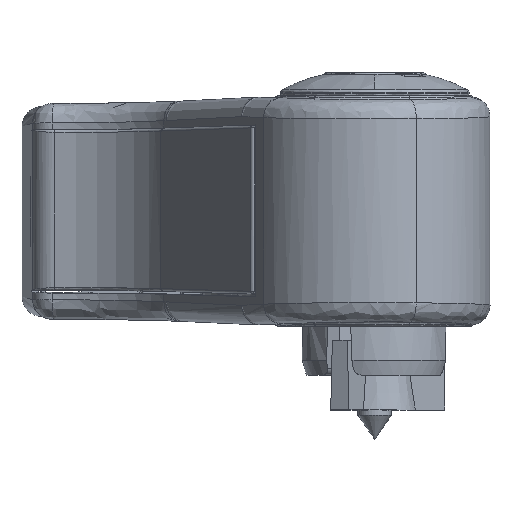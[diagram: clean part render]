
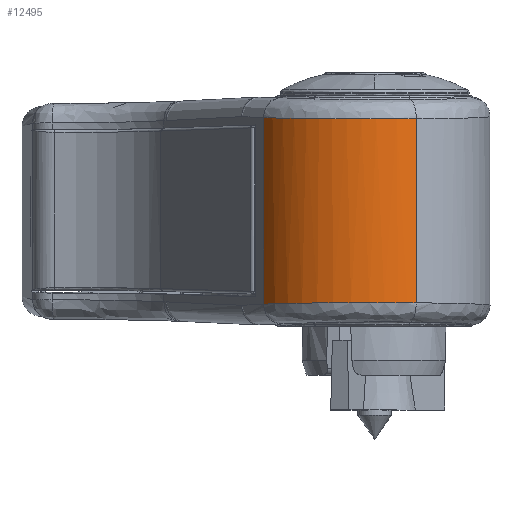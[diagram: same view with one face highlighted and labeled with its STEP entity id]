
A CAD part, top view. The second image highlights one B-rep face of the part: STEP entity #12495.
In plain terms, the highlighted cylindrical face has radius 17.65 mm (diameter 35.3 mm), a partial arc.
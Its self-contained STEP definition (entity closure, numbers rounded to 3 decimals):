
#636 = ORIENTED_EDGE ( 'NONE', *, *, #9479, .F. ) ;
#931 = CARTESIAN_POINT ( 'NONE',  ( 46.516, 66.827, 65.426 ) ) ;
#1066 = CARTESIAN_POINT ( 'NONE',  ( 59.144, 66.826, 65.392 ) ) ;
#1199 = CARTESIAN_POINT ( 'NONE',  ( 55.027, 66.852, 66.562 ) ) ;
#1325 = CARTESIAN_POINT ( 'NONE',  ( 43.203, 66.79, 63.783 ) ) ;
#1991 = DIRECTION ( 'NONE',  ( 1., 0., 0. ) ) ;
#2242 = ORIENTED_EDGE ( 'NONE', *, *, #7779, .T. ) ;
#2251 = CARTESIAN_POINT ( 'NONE',  ( 47.142, 93.168, 65.652 ) ) ;
#2643 = CARTESIAN_POINT ( 'NONE',  ( 42.349, 93.223, 63.2 ) ) ;
#2894 = CARTESIAN_POINT ( 'NONE',  ( 39.939, 93.269, 61.082 ) ) ;
#3431 = CARTESIAN_POINT ( 'NONE',  ( 39.939, 66.731, 61.082 ) ) ;
#3831 = CARTESIAN_POINT ( 'NONE',  ( 46.74, 93.171, 65.51 ) ) ;
#3975 = CYLINDRICAL_SURFACE ( 'NONE', #9862, 17.65 ) ;
#4004 = LINE ( 'NONE', #4261, #22356 ) ;
#4230 = CARTESIAN_POINT ( 'NONE',  ( 52.786, 66.49, 48.927 ) ) ;
#4261 = CARTESIAN_POINT ( 'NONE',  ( 37.291, 80.12, 57.379 ) ) ;
#4358 = CARTESIAN_POINT ( 'NONE',  ( 46.925, 93.17, 65.576 ) ) ;
#4593 = CARTESIAN_POINT ( 'NONE',  ( 59.144, 93.174, 65.392 ) ) ;
#4630 = ORIENTED_EDGE ( 'NONE', *, *, #11629, .T. ) ;
#4886 = VERTEX_POINT ( 'NONE', #10245 ) ;
#4903 = CARTESIAN_POINT ( 'NONE',  ( 45.606, 66.819, 65.053 ) ) ;
#5003 = CARTESIAN_POINT ( 'NONE',  ( 38.508, 93.307, 59.364 ) ) ;
#5412 = CARTESIAN_POINT ( 'NONE',  ( 57.152, 66.843, 66.162 ) ) ;
#5808 = CARTESIAN_POINT ( 'NONE',  ( 50.793, 93.15, 66.496 ) ) ;
#6202 = CARTESIAN_POINT ( 'NONE',  ( 48.72, 93.158, 66.111 ) ) ;
#6331 = CARTESIAN_POINT ( 'NONE',  ( 47.958, 93.162, 65.906 ) ) ;
#6866 = CARTESIAN_POINT ( 'NONE',  ( 43.203, 93.21, 63.783 ) ) ;
#7779 = EDGE_CURVE ( 'NONE', #4886, #14725, #25189, .T. ) ;
#8556 = VERTEX_POINT ( 'NONE', #14013 ) ;
#8830 = CARTESIAN_POINT ( 'NONE',  ( 37.855, 93.328, 58.413 ) ) ;
#8853 = CARTESIAN_POINT ( 'NONE',  ( 37.291, 66.65, 57.379 ) ) ;
#9365 = CARTESIAN_POINT ( 'NONE',  ( 46.613, 66.828, 65.463 ) ) ;
#9479 = EDGE_CURVE ( 'NONE', #4886, #8556, #4004, .T. ) ;
#9791 = EDGE_CURVE ( 'NONE', #19786, #8556, #22956, .T. ) ;
#9862 = AXIS2_PLACEMENT_3D ( 'NONE', #4230, #11994, #1991 ) ;
#9895 = CARTESIAN_POINT ( 'NONE',  ( 57.152, 93.157, 66.162 ) ) ;
#10153 = CARTESIAN_POINT ( 'NONE',  ( 49.235, 93.156, 66.224 ) ) ;
#10245 = CARTESIAN_POINT ( 'NONE',  ( 37.291, 66.65, 57.379 ) ) ;
#10680 = CARTESIAN_POINT ( 'NONE',  ( 40.718, 93.252, 61.85 ) ) ;
#11332 = CARTESIAN_POINT ( 'NONE',  ( 37.855, 66.672, 58.413 ) ) ;
#11629 = EDGE_CURVE ( 'NONE', #14725, #19786, #16091, .T. ) ;
#11994 = DIRECTION ( 'NONE',  ( 0., 1., 0. ) ) ;
#12117 = CARTESIAN_POINT ( 'NONE',  ( 51.85, 93.148, 66.584 ) ) ;
#12495 = ADVANCED_FACE ( 'NONE', ( #22106 ), #3975, .T. ) ;
#12917 = CARTESIAN_POINT ( 'NONE',  ( 50.791, 66.852, 66.592 ) ) ;
#13824 = CARTESIAN_POINT ( 'NONE',  ( 46.817, 93.17, 65.537 ) ) ;
#14013 = CARTESIAN_POINT ( 'NONE',  ( 37.291, 93.35, 57.379 ) ) ;
#14116 = CARTESIAN_POINT ( 'NONE',  ( 59.144, 65.315, 65.392 ) ) ;
#14426 = CARTESIAN_POINT ( 'NONE',  ( 59.144, 66.826, 65.392 ) ) ;
#14611 = CARTESIAN_POINT ( 'NONE',  ( 37.291, 93.35, 57.379 ) ) ;
#14725 = VERTEX_POINT ( 'NONE', #14426 ) ;
#15135 = CARTESIAN_POINT ( 'NONE',  ( 45.826, 66.821, 65.149 ) ) ;
#15393 = CARTESIAN_POINT ( 'NONE',  ( 46.694, 66.829, 65.493 ) ) ;
#16091 = LINE ( 'NONE', #14116, #16140 ) ;
#16140 = VECTOR ( 'NONE', #18063, 1000. ) ;
#16449 = CARTESIAN_POINT ( 'NONE',  ( 59.144, 93.174, 65.392 ) ) ;
#17368 = CARTESIAN_POINT ( 'NONE',  ( 46.654, 66.828, 65.478 ) ) ;
#18063 = DIRECTION ( 'NONE',  ( 0., 1., 0. ) ) ;
#18159 = CARTESIAN_POINT ( 'NONE',  ( 47.579, 93.165, 65.795 ) ) ;
#18457 = DIRECTION ( 'NONE',  ( 0., 1., 0. ) ) ;
#18960 = CARTESIAN_POINT ( 'NONE',  ( 44.507, 66.807, 64.523 ) ) ;
#19092 = CARTESIAN_POINT ( 'NONE',  ( 46.157, 66.824, 65.286 ) ) ;
#19347 = CARTESIAN_POINT ( 'NONE',  ( 42.349, 66.777, 63.2 ) ) ;
#19786 = VERTEX_POINT ( 'NONE', #4593 ) ;
#19871 = CARTESIAN_POINT ( 'NONE',  ( 46.723, 93.171, 65.503 ) ) ;
#20653 = CARTESIAN_POINT ( 'NONE',  ( 44.941, 93.188, 64.77 ) ) ;
#21059 = CARTESIAN_POINT ( 'NONE',  ( 40.718, 66.748, 61.85 ) ) ;
#21193 = CARTESIAN_POINT ( 'NONE',  ( 38.508, 66.693, 59.364 ) ) ;
#21842 = CARTESIAN_POINT ( 'NONE',  ( 46.771, 93.171, 65.521 ) ) ;
#22102 = CARTESIAN_POINT ( 'NONE',  ( 55.027, 93.148, 66.562 ) ) ;
#22106 = FACE_OUTER_BOUND ( 'NONE', #24456, .T. ) ;
#22356 = VECTOR ( 'NONE', #18457, 1000. ) ;
#22956 = B_SPLINE_CURVE_WITH_KNOTS ( 'NONE', 3,
 ( #16449, #9895, #22102, #12117, #5808, #10153, #6202, #6331, #18159, #2251, #4358, #13824, #21842, #3831, #19871, #25922, #20653, #6866, #2643, #10680, #2894, #5003, #8830, #14611 ),
 .UNSPECIFIED., .F., .F.,
 ( 4, 2, 2, 2, 1, 1, 1, 1, 2, 2, 2, 2, 2, 4 ),
 ( 0., 0.25, 0.375, 0.438, 0.469, 0.484, 0.492, 0.496, 0.498, 0.5, 0.625, 0.75, 0.875, 1. ),
 .UNSPECIFIED. ) ;
#23424 = CARTESIAN_POINT ( 'NONE',  ( 48.681, 66.845, 66.221 ) ) ;
#23749 = ORIENTED_EDGE ( 'NONE', *, *, #9791, .T. ) ;
#24456 = EDGE_LOOP ( 'NONE', ( #2242, #4630, #23749, #636 ) ) ;
#24891 = CARTESIAN_POINT ( 'NONE',  ( 44.945, 66.812, 64.748 ) ) ;
#25142 = CARTESIAN_POINT ( 'NONE',  ( 46.323, 66.825, 65.352 ) ) ;
#25189 = B_SPLINE_CURVE_WITH_KNOTS ( 'NONE', 3,
 ( #8853, #11332, #21193, #3431, #21059, #19347, #1325, #18960, #24891, #4903, #15135, #19092, #25142, #931, #9365, #17368, #25401, #15393, #23424, #12917, #1199, #5412, #1066 ),
 .UNSPECIFIED., .F., .F.,
 ( 4, 2, 2, 2, 2, 2, 1, 1, 1, 2, 2, 2, 4 ),
 ( 0., 0.125, 0.25, 0.375, 0.437, 0.469, 0.484, 0.492, 0.496, 0.498, 0.5, 0.75, 1. ),
 .UNSPECIFIED. ) ;
#25401 = CARTESIAN_POINT ( 'NONE',  ( 46.682, 66.828, 65.488 ) ) ;
#25922 = CARTESIAN_POINT ( 'NONE',  ( 45.826, 93.178, 65.175 ) ) ;
